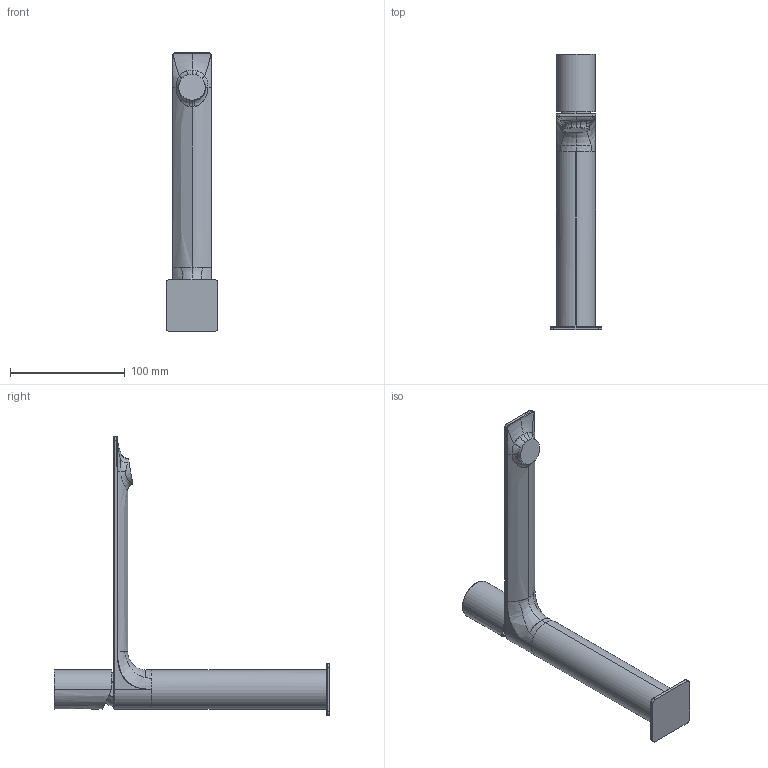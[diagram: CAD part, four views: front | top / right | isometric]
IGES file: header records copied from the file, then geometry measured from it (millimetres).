
Start section:  PTC IGES file: 78040s_sw0001.igs
Global section: file name: 78040s_sw0001.igs; native system: Creo Parametric by PTC Inc.; preprocessor: 2018100; author: volponeff; organization: Unknown; date: 20200521.103015; units: millimetre
Bounding box: 45 x 240 x 242.5 mm (x, y, z)
Surface area: 55288.9 mm2 (no closed solid volume)
Topology: 0 solids, 0 shells, 194 faces, 956 edges, 935 vertices
Faces by surface type: revolution 110, bspline 82, extrusion 2
